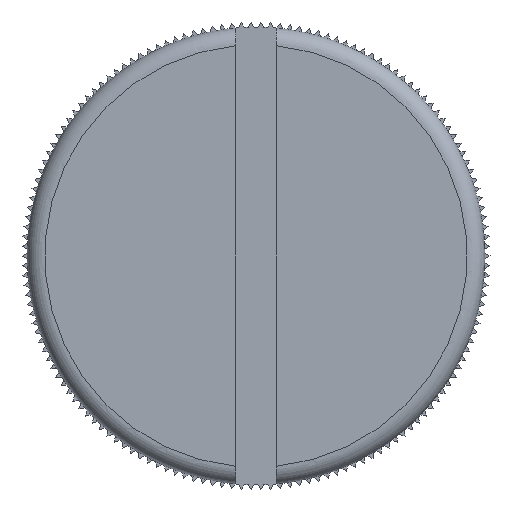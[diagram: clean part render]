
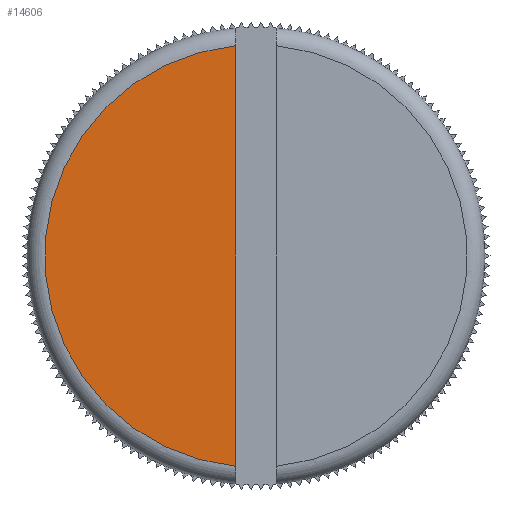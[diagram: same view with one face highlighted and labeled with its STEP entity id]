
A CAD part, front view. The second image highlights one B-rep face of the part: STEP entity #14606.
In plain terms, the highlighted planar face has unit normal (0, -1, 0).
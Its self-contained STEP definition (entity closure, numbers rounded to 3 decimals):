
#1528 = DIRECTION ( 'NONE',  ( 0., 1., 0. ) ) ;
#1799 = VERTEX_POINT ( 'NONE', #1933 ) ;
#1933 = CARTESIAN_POINT ( 'NONE',  ( -1.15, 0., 11.945 ) ) ;
#3160 = CARTESIAN_POINT ( 'NONE',  ( -1.15, 0., -13.291 ) ) ;
#3297 = FACE_OUTER_BOUND ( 'NONE', #5412, .T. ) ;
#3428 = AXIS2_PLACEMENT_3D ( 'NONE', #19738, #11878, #18195 ) ;
#4242 = EDGE_CURVE ( 'NONE', #1799, #11669, #10387, .T. ) ;
#4574 = VECTOR ( 'NONE', #7947, 1000. ) ;
#5179 = ORIENTED_EDGE ( 'NONE', *, *, #4242, .T. ) ;
#5412 = EDGE_LOOP ( 'NONE', ( #5179, #6614 ) ) ;
#6614 = ORIENTED_EDGE ( 'NONE', *, *, #15008, .T. ) ;
#7947 = DIRECTION ( 'NONE',  ( 0., 0., 1. ) ) ;
#9416 = CARTESIAN_POINT ( 'NONE',  ( 0., 0., 0. ) ) ;
#10387 = CIRCLE ( 'NONE', #3428, 12. ) ;
#11286 = DIRECTION ( 'NONE',  ( 0., 0., 1. ) ) ;
#11669 = VERTEX_POINT ( 'NONE', #19833 ) ;
#11878 = DIRECTION ( 'NONE',  ( 0., -1., 0. ) ) ;
#14606 = ADVANCED_FACE ( 'NONE', ( #3297 ), #19152, .F. ) ;
#15008 = EDGE_CURVE ( 'NONE', #11669, #1799, #15818, .T. ) ;
#15818 = LINE ( 'NONE', #3160, #4574 ) ;
#17451 = AXIS2_PLACEMENT_3D ( 'NONE', #9416, #1528, #11286 ) ;
#18195 = DIRECTION ( 'NONE',  ( 0., 0., 1. ) ) ;
#19152 = PLANE ( 'NONE',  #17451 ) ;
#19738 = CARTESIAN_POINT ( 'NONE',  ( 0., 0., 0. ) ) ;
#19833 = CARTESIAN_POINT ( 'NONE',  ( -1.15, 0., -11.945 ) ) ;
